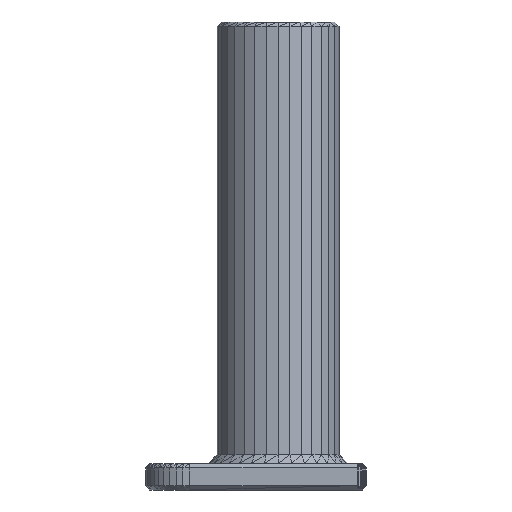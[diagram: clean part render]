
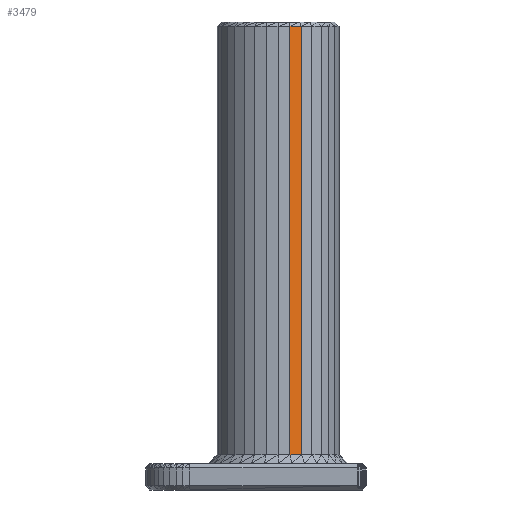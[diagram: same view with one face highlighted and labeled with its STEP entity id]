
A CAD part, front view. The second image highlights one B-rep face of the part: STEP entity #3479.
In plain terms, the highlighted planar face has unit normal (0.29, -0.957, 0).
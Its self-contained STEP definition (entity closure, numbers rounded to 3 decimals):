
#3274 = VERTEX_POINT('',#3275);
#3275 = CARTESIAN_POINT('',(3.846,-6.767,
    52.5));
#3289 = PLANE('',#3290);
#3290 = AXIS2_PLACEMENT_3D('',#3291,#3292,#3293);
#3291 = CARTESIAN_POINT('',(2.841,-6.866,
    28.583));
#3292 = DIRECTION('',(0.098,-0.995,-0.));
#3293 = DIRECTION('',(-0.995,-0.098,0.));
#3367 = PLANE('',#3368);
#3368 = AXIS2_PLACEMENT_3D('',#3369,#3370,#3371);
#3369 = CARTESIAN_POINT('',(4.563,-6.388,
    52.655));
#3370 = DIRECTION('',(0.205,-0.677,0.707));
#3371 = DIRECTION('',(0.,0.722,0.691)
  );
#3382 = EDGE_CURVE('',#3274,#3383,#3385,.T.);
#3383 = VERTEX_POINT('',#3384);
#3384 = CARTESIAN_POINT('',(5.141,-6.375,
    52.5));
#3385 = SURFACE_CURVE('',#3386,(#3390,#3397),.PCURVE_S1.);
#3386 = LINE('',#3387,#3388);
#3387 = CARTESIAN_POINT('',(3.846,-6.767,
    52.5));
#3388 = VECTOR('',#3389,1.);
#3389 = DIRECTION('',(0.957,0.29,0.));
#3390 = PCURVE('',#3367,#3391);
#3391 = DEFINITIONAL_REPRESENTATION('',(#3392),#3396);
#3392 = LINE('',#3393,#3394);
#3393 = CARTESIAN_POINT('',(-0.381,0.733));
#3394 = VECTOR('',#3395,1.);
#3395 = DIRECTION('',(0.21,-0.978));
#3396 = ( GEOMETRIC_REPRESENTATION_CONTEXT(2) 
PARAMETRIC_REPRESENTATION_CONTEXT() REPRESENTATION_CONTEXT('2D SPACE',''
  ) );
#3397 = PCURVE('',#3398,#3403);
#3398 = PLANE('',#3399);
#3399 = AXIS2_PLACEMENT_3D('',#3400,#3401,#3402);
#3400 = CARTESIAN_POINT('',(4.174,-6.668,
    28.583));
#3401 = DIRECTION('',(0.29,-0.957,-0.));
#3402 = DIRECTION('',(-0.957,-0.29,0.));
#3403 = DEFINITIONAL_REPRESENTATION('',(#3404),#3408);
#3404 = LINE('',#3405,#3406);
#3405 = CARTESIAN_POINT('',(0.343,-23.917));
#3406 = VECTOR('',#3407,1.);
#3407 = DIRECTION('',(-1.,0.));
#3408 = ( GEOMETRIC_REPRESENTATION_CONTEXT(2) 
PARAMETRIC_REPRESENTATION_CONTEXT() REPRESENTATION_CONTEXT('2D SPACE',''
  ) );
#3479 = ADVANCED_FACE('',(#3480),#3398,.T.);
#3480 = FACE_BOUND('',#3481,.T.);
#3481 = EDGE_LOOP('',(#3482,#3483,#3506,#3534));
#3482 = ORIENTED_EDGE('',*,*,#3382,.F.);
#3483 = ORIENTED_EDGE('',*,*,#3484,.T.);
#3484 = EDGE_CURVE('',#3274,#3485,#3487,.T.);
#3485 = VERTEX_POINT('',#3486);
#3486 = CARTESIAN_POINT('',(3.846,-6.767,
    4.));
#3487 = SURFACE_CURVE('',#3488,(#3492,#3499),.PCURVE_S1.);
#3488 = LINE('',#3489,#3490);
#3489 = CARTESIAN_POINT('',(3.846,-6.767,
    52.5));
#3490 = VECTOR('',#3491,1.);
#3491 = DIRECTION('',(0.,0.,-1.));
#3492 = PCURVE('',#3398,#3493);
#3493 = DEFINITIONAL_REPRESENTATION('',(#3494),#3498);
#3494 = LINE('',#3495,#3496);
#3495 = CARTESIAN_POINT('',(0.343,-23.917));
#3496 = VECTOR('',#3497,1.);
#3497 = DIRECTION('',(-0.,1.));
#3498 = ( GEOMETRIC_REPRESENTATION_CONTEXT(2) 
PARAMETRIC_REPRESENTATION_CONTEXT() REPRESENTATION_CONTEXT('2D SPACE',''
  ) );
#3499 = PCURVE('',#3289,#3500);
#3500 = DEFINITIONAL_REPRESENTATION('',(#3501),#3505);
#3501 = LINE('',#3502,#3503);
#3502 = CARTESIAN_POINT('',(-1.01,-23.917));
#3503 = VECTOR('',#3504,1.);
#3504 = DIRECTION('',(-0.,1.));
#3505 = ( GEOMETRIC_REPRESENTATION_CONTEXT(2) 
PARAMETRIC_REPRESENTATION_CONTEXT() REPRESENTATION_CONTEXT('2D SPACE',''
  ) );
#3506 = ORIENTED_EDGE('',*,*,#3507,.F.);
#3507 = EDGE_CURVE('',#3508,#3485,#3510,.T.);
#3508 = VERTEX_POINT('',#3509);
#3509 = CARTESIAN_POINT('',(5.141,-6.375,4.
    ));
#3510 = SURFACE_CURVE('',#3511,(#3515,#3522),.PCURVE_S1.);
#3511 = LINE('',#3512,#3513);
#3512 = CARTESIAN_POINT('',(5.141,-6.375,4.
    ));
#3513 = VECTOR('',#3514,1.);
#3514 = DIRECTION('',(-0.957,-0.29,0.));
#3515 = PCURVE('',#3398,#3516);
#3516 = DEFINITIONAL_REPRESENTATION('',(#3517),#3521);
#3517 = LINE('',#3518,#3519);
#3518 = CARTESIAN_POINT('',(-1.01,24.583));
#3519 = VECTOR('',#3520,1.);
#3520 = DIRECTION('',(1.,0.));
#3521 = ( GEOMETRIC_REPRESENTATION_CONTEXT(2) 
PARAMETRIC_REPRESENTATION_CONTEXT() REPRESENTATION_CONTEXT('2D SPACE',''
  ) );
#3522 = PCURVE('',#3523,#3528);
#3523 = PLANE('',#3524);
#3524 = AXIS2_PLACEMENT_3D('',#3525,#3526,#3527);
#3525 = CARTESIAN_POINT('',(4.372,-6.983,
    3.641));
#3526 = DIRECTION('',(0.205,-0.677,0.707));
#3527 = DIRECTION('',(0.,0.722,0.691));
#3528 = DEFINITIONAL_REPRESENTATION('',(#3529),#3533);
#3529 = LINE('',#3530,#3531);
#3530 = CARTESIAN_POINT('',(0.688,-0.785));
#3531 = VECTOR('',#3532,1.);
#3532 = DIRECTION('',(-0.21,0.978));
#3533 = ( GEOMETRIC_REPRESENTATION_CONTEXT(2) 
PARAMETRIC_REPRESENTATION_CONTEXT() REPRESENTATION_CONTEXT('2D SPACE',''
  ) );
#3534 = ORIENTED_EDGE('',*,*,#3535,.F.);
#3535 = EDGE_CURVE('',#3383,#3508,#3536,.T.);
#3536 = SURFACE_CURVE('',#3537,(#3541,#3548),.PCURVE_S1.);
#3537 = LINE('',#3538,#3539);
#3538 = CARTESIAN_POINT('',(5.141,-6.375,
    52.5));
#3539 = VECTOR('',#3540,1.);
#3540 = DIRECTION('',(0.,0.,-1.));
#3541 = PCURVE('',#3398,#3542);
#3542 = DEFINITIONAL_REPRESENTATION('',(#3543),#3547);
#3543 = LINE('',#3544,#3545);
#3544 = CARTESIAN_POINT('',(-1.01,-23.917));
#3545 = VECTOR('',#3546,1.);
#3546 = DIRECTION('',(-0.,1.));
#3547 = ( GEOMETRIC_REPRESENTATION_CONTEXT(2) 
PARAMETRIC_REPRESENTATION_CONTEXT() REPRESENTATION_CONTEXT('2D SPACE',''
  ) );
#3548 = PCURVE('',#3549,#3554);
#3549 = PLANE('',#3550);
#3550 = AXIS2_PLACEMENT_3D('',#3551,#3552,#3553);
#3551 = CARTESIAN_POINT('',(5.443,-6.213,
    28.583));
#3552 = DIRECTION('',(0.471,-0.882,-0.));
#3553 = DIRECTION('',(-0.882,-0.471,0.));
#3554 = DEFINITIONAL_REPRESENTATION('',(#3555),#3559);
#3555 = LINE('',#3556,#3557);
#3556 = CARTESIAN_POINT('',(0.343,-23.917));
#3557 = VECTOR('',#3558,1.);
#3558 = DIRECTION('',(-0.,1.));
#3559 = ( GEOMETRIC_REPRESENTATION_CONTEXT(2) 
PARAMETRIC_REPRESENTATION_CONTEXT() REPRESENTATION_CONTEXT('2D SPACE',''
  ) );
